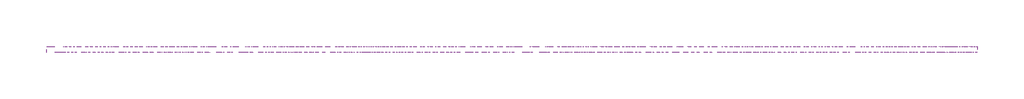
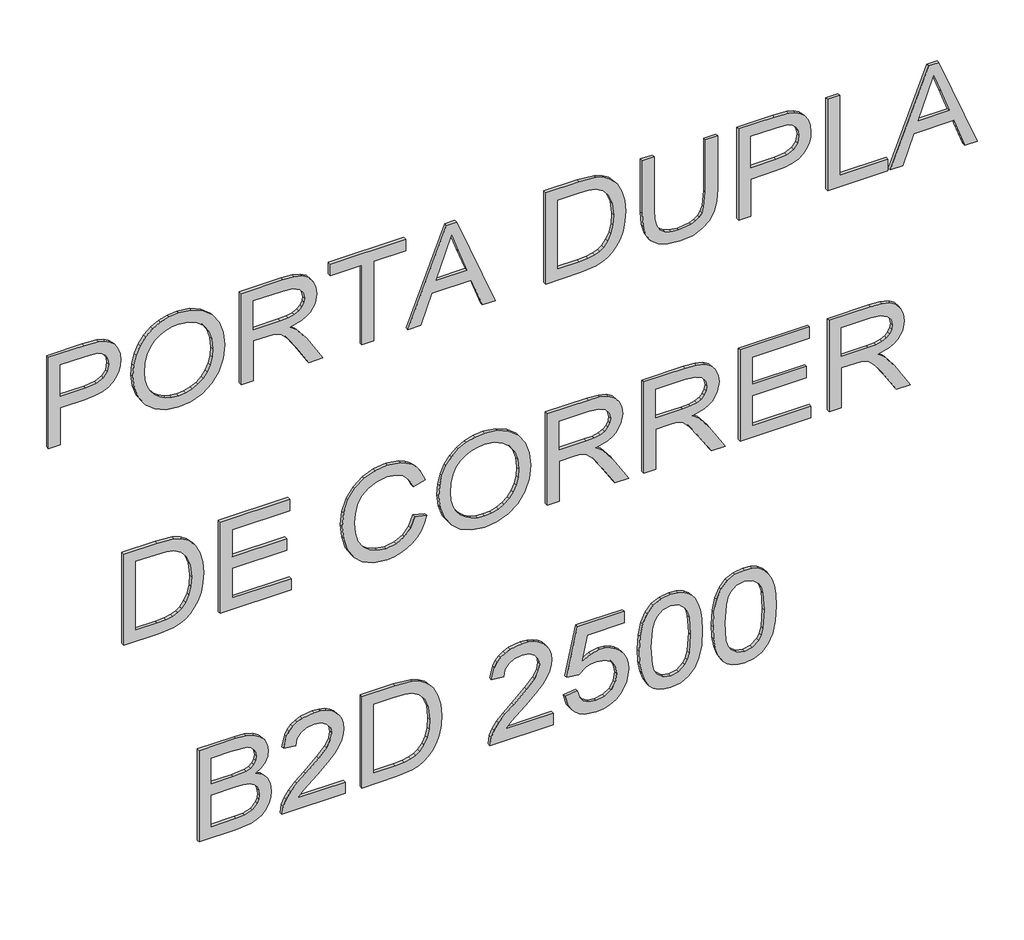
# One storey, part 9 of 13: 1 proxy.
"""IFC4 building model written with IfcOpenShell, lengths in millimetres."""

from ifc_helpers import new_model, si_unit, frame, origin, place, context, project, spatial, polyline, outline, extrude, element, save

model = new_model("IFC4")

# Units and contexts
model_context = context("Model", 3, world=origin())
ifc_project = project(units=[si_unit("LENGTHUNIT", "METRE", prefix="MILLI")], contexts=[model_context])

# Site, building, storey
site = spatial("IfcSite", under=ifc_project)
building = spatial("IfcBuilding", under=site)
storey = spatial("IfcBuildingStorey", under=building, Name="02 - Marelli - Planta Baixa - Portas", Elevation=-12000.0)

# Proxy
placement = place(None, origin())
element("IfcBuildingElementProxy", 1, Name="300mm Arial", ObjectType="300mm Arial", at=placement, inside=storey, context=model_context, shape_type="SweptSolid", body=[
    extrude(outline(polyline([(-5683.1381416, 47436.452421), (-5683.1381416, 47474.1235373), (-5560.7070137, 47474.1235373), (-5560.7070137, 47550.7165687), (-5559.0423476, 47579.9149028), (-5554.0483495, 47604.2342019), (-5545.7250194, 47623.6744661), (-5534.0723572, 47638.2356953), (-5520.0146665, 47648.8421931), (-5504.4762507, 47656.4182629), (-5487.4571099, 47660.9639049), (-5468.9572441, 47662.4791188), (-5447.5005267, 47660.2350386), (-5427.8648252, 47653.5027981), (-5411.2181649, 47643.0825406), (-5398.7285712, 47629.7744094), (-5390.0005708, 47613.2473108), (-5384.6386908, 47593.1701509), (-5381.7692112, 47548.1413947), (-5381.7692112, 47436.452421), (-5683.1381416, 47436.452421)]), holes=[polyline([(-5523.0358973, 47474.1235373), (-5419.4403275, 47474.1235373), (-5419.4403275, 47552.0409439), (-5422.0155015, 47589.7120602), (-5428.3430718, 47603.9398963), (-5439.085226, 47615.132706), (-5453.3590475, 47622.3891784), (-5470.2816192, 47624.8080025), (-5492.556874, 47620.7061183), (-5509.2035343, 47608.4004655), (-5519.5778066, 47586.3275458), (-5523.0358973, 47552.9238607), (-5523.0358973, 47474.1235373)])]), frame((0.0, 8778.3159498, 0.0), z_axis=(0.0, 1.0, 0.0), x_axis=(0.0, 0.0, 1.0)), (0.0, 0.0, 1.0), 10.0),
    extrude(outline(polyline([(-5536.426802, 47700.1502351), (-5574.971638, 47704.4544545), (-5611.4379408, 47717.3671125), (-5643.1309747, 47738.6306918), (-5667.3560041, 47767.987675), (-5682.7242744, 47803.6354404), (-5687.8470312, 47843.771366), (-5683.211718, 47881.5804381), (-5669.3057786, 47916.7223657), (-5646.3867303, 47946.6863542), (-5614.7120905, 47968.961609), (-5576.2500279, 47982.784775), (-5532.9687112, 47987.392497), (-5490.2576116, 47983.0147012), (-5452.3289779, 47969.881314), (-5420.7095204, 47948.3970055), (-5396.9259494, 47918.9664459), (-5382.0267286, 47883.5210156), (-5377.0603217, 47843.9920952), (-5379.7044735, 47813.7016115), (-5387.636929, 47786.3265925), (-5400.8576882, 47761.8670383), (-5419.3667511, 47740.322949), (-5442.5479153, 47722.7473867), (-5469.7849785, 47710.1934136), (-5501.0779408, 47702.6610297), (-5536.426802, 47700.1502351)]), holes=[polyline([(-5536.794684, 47737.8213514), (-5506.2581791, 47739.7849216), (-5480.4259653, 47745.675632), (-5459.2980424, 47755.4934828), (-5442.8744106, 47769.2384738), (-5430.5618601, 47785.7057916), (-5421.7671811, 47803.6906227), (-5416.4903738, 47823.1929669), (-5414.731438, 47844.2128244), (-5418.3826668, 47873.3766696), (-5429.3363532, 47899.5054883), (-5446.9303096, 47921.1645408), (-5470.5023484, 47936.9190872), (-5499.3259028, 47946.5208073), (-5532.6744056, 47949.7213807), (-5559.212493, 47947.8520803), (-5582.5408101, 47942.2441791), (-5602.6593567, 47932.8976772), (-5619.5681329, 47919.8125744), (-5632.9590375, 47903.830401), (-5642.5239694, 47885.7926869), (-5648.2629285, 47865.6994322), (-5650.1759149, 47843.5506368), (-5648.2813226, 47821.774322), (-5642.5975458, 47801.915592), (-5633.1245844, 47783.974447), (-5619.8624385, 47767.9508868), (-5603.3031502, 47754.7692151), (-5583.9387616, 47745.3537353), (-5561.7692729, 47739.7044474), (-5536.794684, 47737.8213514)])]), frame((0.0, 8778.3159498, 0.0), z_axis=(0.0, 1.0, 0.0), x_axis=(0.0, 0.0, 1.0)), (0.0, 0.0, 1.0), 10.0),
    extrude(outline(polyline([(-5683.1381416, 48039.1902819), (-5683.1381416, 48076.8613982), (-5551.2892346, 48076.8613982), (-5551.2892346, 48122.3316128), (-5552.6136098, 48144.1838033), (-5559.7873087, 48162.0996565), (-5579.3218426, 48182.0020724), (-5620.6717789, 48210.328986), (-5683.1381416, 48249.5452067), (-5683.1381416, 48293.3231641), (-5601.4683387, 48243.0704836), (-5562.6935764, 48212.536278), (-5546.580345, 48191.1255459), (-5536.5923489, 48228.2356422), (-5528.5771199, 48242.6175289), (-5518.547737, 48254.2173081), (-5493.9364315, 48269.5303961), (-5464.2483545, 48274.6347588), (-5440.3820101, 48271.5537471), (-5418.6677753, 48262.310712), (-5401.1565923, 48247.9081318), (-5389.8994033, 48229.3484852), (-5383.8017592, 48203.9554305), (-5381.7692112, 48169.0526262), (-5381.7692112, 48039.1902819), (-5683.1381416, 48039.1902819)]), holes=[polyline([(-5513.6181183, 48076.8613982), (-5419.4403275, 48076.8613982), (-5419.4403275, 48170.671307), (-5422.6960832, 48200.4789456), (-5432.4633501, 48221.0343521), (-5447.2706004, 48232.9813199), (-5465.6463061, 48236.9636425), (-5478.9544373, 48234.8759122), (-5491.2141048, 48228.6127212), (-5501.3492537, 48218.3304194), (-5508.2838293, 48204.1853567), (-5512.284546, 48185.3957838), (-5513.6181183, 48161.1799515), (-5513.6181183, 48076.8613982)])]), frame((0.0, 8778.3159498, 0.0), z_axis=(0.0, 1.0, 0.0), x_axis=(0.0, 0.0, 1.0)), (0.0, 0.0, 1.0), 10.0),
    extrude(outline(polyline([(-5683.1381416, 48415.9014449), (-5683.1381416, 48453.5725612), (-5419.4403275, 48453.5725612), (-5419.4403275, 48552.4592416), (-5381.7692112, 48552.4592416), (-5381.7692112, 48317.0147646), (-5419.4403275, 48317.0147646), (-5419.4403275, 48415.9014449), (-5683.1381416, 48415.9014449)])), frame((0.0, 8778.3159498, 0.0), z_axis=(0.0, 1.0, 0.0), x_axis=(0.0, 0.0, 1.0)), (0.0, 0.0, 1.0), 10.0),
    extrude(outline(polyline([(-5683.1381416, 48559.7433051), (-5683.1381416, 48599.5481369), (-5588.9603509, 48633.9818917), (-5588.9603509, 48758.1052769), (-5683.1381416, 48792.612608), (-5683.1381416, 48832.4174399), (-5381.7692112, 48712.1200275), (-5381.7692112, 48680.0407175), (-5683.1381416, 48559.7433051)]), holes=[polyline([(-5551.2892346, 48647.8142547), (-5470.7230776, 48677.3183907), (-5419.4403275, 48696.0803725), (-5477.1978007, 48717.196799), (-5551.2892346, 48744.3464902), (-5551.2892346, 48647.8142547)])]), frame((0.0, 8778.3159498, 0.0), z_axis=(0.0, 1.0, 0.0), x_axis=(0.0, 0.0, 1.0)), (0.0, 0.0, 1.0), 10.0),
    extrude(outline(polyline([(-5683.1381416, 48990.3859686), (-5683.1381416, 49099.3526156), (-5677.9877937, 49147.8026743), (-5671.6326322, 49167.3464053), (-5662.8678437, 49183.8183217), (-5651.0496346, 49198.1657195), (-5635.5342115, 49211.3358949), (-5615.8801159, 49222.777025), (-5591.6458894, 49231.9372866), (-5563.1810201, 49237.9521573), (-5530.8349956, 49239.9571141), (-5492.7592091, 49236.9956641), (-5459.171583, 49228.1113139), (-5430.6239402, 49213.2672754), (-5407.6681037, 49192.4267604), (-5394.4795341, 49172.1564624), (-5386.1102187, 49148.1337681), (-5381.7692112, 49094.3494204), (-5381.7692112, 48990.3859686), (-5683.1381416, 48990.3859686)]), holes=[polyline([(-5645.4670253, 49028.0570849), (-5419.4403275, 49028.0570849), (-5419.4403275, 49093.6872329), (-5420.9486437, 49125.435449), (-5425.4735922, 49147.1036986), (-5438.0551565, 49168.394869), (-5458.8772774, 49186.2095546), (-5489.1907538, 49198.266887), (-5530.2463845, 49202.2859978), (-5561.2312455, 49200.2350557), (-5587.2313055, 49194.0822293), (-5608.338535, 49184.250583), (-5624.6449044, 49171.163181), (-5633.4556782, 49158.986287), (-5640.0223718, 49143.2041494), (-5644.105862, 49122.290058), (-5645.4670253, 49094.7173024), (-5645.4670253, 49028.0570849)])]), frame((0.0, 8778.3159498, 0.0), z_axis=(0.0, 1.0, 0.0), x_axis=(0.0, 0.0, 1.0)), (0.0, 0.0, 1.0), 10.0),
    extrude(outline(polyline([(-5381.7692112, 49489.5282597), (-5554.3058669, 49489.5282597), (-5601.4683387, 49484.7641878), (-5618.2069695, 49478.809098), (-5630.3838635, 49470.4719723), (-5639.042886, 49459.3389434), (-5645.227902, 49444.9961441), (-5650.1759149, 49406.6812344), (-5647.6743173, 49382.5113873), (-5640.1695246, 49362.3882421), (-5628.0570099, 49346.9555924), (-5611.7322464, 49336.8572317), (-5588.1602075, 49331.2838194), (-5554.3058669, 49329.4260154), (-5381.7692112, 49329.4260154), (-5381.7692112, 49291.7548991), (-5555.6302421, 49291.7548991), (-5598.4057211, 49294.6151816), (-5631.0828393, 49303.1960291), (-5655.4458245, 49318.4631319), (-5673.2789042, 49341.3821802), (-5684.2049994, 49371.9623711), (-5687.8470312, 49410.2129015), (-5683.6623735, 49449.3187576), (-5671.1084004, 49480.1104806), (-5651.8865662, 49502.6432528), (-5627.698325, 49516.9722565), (-5596.3455819, 49524.6425961), (-5555.6302421, 49527.199376), (-5381.7692112, 49527.199376), (-5381.7692112, 49489.5282597)])), frame((0.0, 8778.3159498, 0.0), z_axis=(0.0, 1.0, 0.0), x_axis=(0.0, 0.0, 1.0)), (0.0, 0.0, 1.0), 10.0),
    extrude(outline(polyline([(-5683.1381416, 49593.1238295), (-5683.1381416, 49630.7949458), (-5560.7070137, 49630.7949458), (-5560.7070137, 49707.3879772), (-5559.0423476, 49736.5863113), (-5554.0483495, 49760.9056105), (-5545.7250194, 49780.3458746), (-5534.0723572, 49794.9071039), (-5520.0146665, 49805.5136016), (-5504.4762507, 49813.0896715), (-5487.4571099, 49817.6353134), (-5468.9572441, 49819.1505273), (-5447.5005267, 49816.9064472), (-5427.8648252, 49810.1742067), (-5411.2181649, 49799.7539491), (-5398.7285712, 49786.445818), (-5390.0005708, 49769.9187193), (-5384.6386908, 49749.8415595), (-5381.7692112, 49704.8128032), (-5381.7692112, 49593.1238295), (-5683.1381416, 49593.1238295)]), holes=[polyline([(-5523.0358973, 49630.7949458), (-5419.4403275, 49630.7949458), (-5419.4403275, 49708.7123524), (-5422.0155015, 49746.3834687), (-5428.3430718, 49760.6113049), (-5439.085226, 49771.8041146), (-5453.3590475, 49779.0605869), (-5470.2816192, 49781.479411), (-5492.556874, 49777.3775268), (-5509.2035343, 49765.0718741), (-5519.5778066, 49742.9989543), (-5523.0358973, 49709.5952692), (-5523.0358973, 49630.7949458)])]), frame((0.0, 8778.3159498, 0.0), z_axis=(0.0, 1.0, 0.0), x_axis=(0.0, 0.0, 1.0)), (0.0, 0.0, 1.0), 10.0),
    extrude(outline(polyline([(-5683.1381416, 49870.9483123), (-5683.1381416, 50059.3038938), (-5645.4670253, 50059.3038938), (-5645.4670253, 49908.6194286), (-5381.7692112, 49908.6194286), (-5381.7692112, 49870.9483123), (-5683.1381416, 49870.9483123)])), frame((0.0, 8778.3159498, 0.0), z_axis=(0.0, 1.0, 0.0), x_axis=(0.0, 0.0, 1.0)), (0.0, 0.0, 1.0), 10.0),
    extrude(outline(polyline([(-5683.1381416, 50066.5879573), (-5683.1381416, 50106.3927892), (-5588.9603509, 50140.8265439), (-5588.9603509, 50264.9499291), (-5683.1381416, 50299.4572602), (-5683.1381416, 50339.2620921), (-5381.7692112, 50218.9646797), (-5381.7692112, 50186.8853697), (-5683.1381416, 50066.5879573)]), holes=[polyline([(-5551.2892346, 50154.6589069), (-5470.7230776, 50184.163043), (-5419.4403275, 50202.9250247), (-5477.1978007, 50224.0414512), (-5551.2892346, 50251.1911425), (-5551.2892346, 50154.6589069)])]), frame((0.0, 8778.3159498, 0.0), z_axis=(0.0, 1.0, 0.0), x_axis=(0.0, 0.0, 1.0)), (0.0, 0.0, 1.0), 10.0),
    extrude(outline(polyline([(-6414.9870487, 47671.8968979), (-6414.9870487, 47780.8635449), (-6409.8367008, 47829.3136036), (-6403.4815393, 47848.8573346), (-6394.7167508, 47865.329251), (-6382.8985417, 47879.6766488), (-6367.3831185, 47892.8468242), (-6347.729023, 47904.2879542), (-6323.4947965, 47913.4482159), (-6295.0299271, 47919.4630866), (-6262.6839027, 47921.4680434), (-6224.6081162, 47918.5065934), (-6191.0204901, 47909.6222432), (-6162.4728472, 47894.7782047), (-6139.5170107, 47873.9376896), (-6126.3284412, 47853.6673917), (-6117.9591258, 47829.6446974), (-6113.6181183, 47775.8603497), (-6113.6181183, 47671.8968979), (-6414.9870487, 47671.8968979)]), holes=[polyline([(-6377.3159324, 47709.5680142), (-6151.2892346, 47709.5680142), (-6151.2892346, 47775.1981621), (-6152.7975508, 47806.9463783), (-6157.3224993, 47828.6146278), (-6169.9040635, 47849.9057983), (-6190.7261845, 47867.7204839), (-6221.0396609, 47879.7778163), (-6262.0952915, 47883.7969271), (-6293.0801526, 47881.745985), (-6319.0802126, 47875.5931586), (-6340.187442, 47865.7615123), (-6356.4938115, 47852.6741103), (-6365.3045853, 47840.4972163), (-6371.8712789, 47824.7150787), (-6375.954769, 47803.8009873), (-6377.3159324, 47776.2282317), (-6377.3159324, 47709.5680142)])]), frame((0.0, 8778.3159498, 0.0), z_axis=(0.0, 1.0, 0.0), x_axis=(0.0, 0.0, 1.0)), (0.0, 0.0, 1.0), 10.0),
    extrude(outline(polyline([(-6414.9870487, 47973.2658283), (-6414.9870487, 48194.5836366), (-6377.3159324, 48194.5836366), (-6377.3159324, 48010.9369447), (-6278.4292521, 48010.9369447), (-6278.4292521, 48180.456968), (-6240.7581358, 48180.456968), (-6240.7581358, 48010.9369447), (-6151.2892346, 48010.9369447), (-6151.2892346, 48189.8747471), (-6113.6181183, 48189.8747471), (-6113.6181183, 47973.2658283), (-6414.9870487, 47973.2658283)])), frame((0.0, 8778.3159498, 0.0), z_axis=(0.0, 1.0, 0.0), x_axis=(0.0, 0.0, 1.0)), (0.0, 0.0, 1.0), 10.0),
    extrude(outline(polyline([(-6307.8598117, 48580.7125788), (-6340.1230627, 48568.5264877), (-6363.3364166, 48548.7436334), (-6377.3527206, 48522.5412383), (-6382.024822, 48491.0965248), (-6378.5943223, 48464.1215775), (-6368.3028235, 48439.1147988), (-6351.0767491, 48418.2558897), (-6326.8425227, 48403.7245509), (-6296.7497755, 48395.1988857), (-6261.9481387, 48392.3569973), (-6233.5292546, 48394.7574273), (-6205.9564991, 48401.9587173), (-6181.5659228, 48415.0829075), (-6162.6935764, 48435.2520379), (-6150.6086529, 48461.831512), (-6146.580345, 48494.1867335), (-6150.2131797, 48522.2561297), (-6161.1116838, 48545.1016016), (-6179.956439, 48562.9438784), (-6207.428027, 48576.0036892), (-6198.4517064, 48613.6748055), (-6160.6334373, 48597.0373423), (-6145.3111522, 48585.2352281), (-6132.3801, 48571.1108587), (-6122.1115938, 48554.9309487), (-6114.7769466, 48536.9622125), (-6108.9092287, 48495.6582615), (-6113.4433743, 48457.8032042), (-6127.0458111, 48423.2590848), (-6149.3854453, 48394.1320279), (-6180.131183, 48372.5281577), (-6218.0782108, 48359.1464501), (-6262.0217151, 48354.6858809), (-6303.6843511, 48358.6314153), (-6342.5878721, 48370.4680185), (-6375.6788575, 48389.8553997), (-6399.9038869, 48416.4532679), (-6414.7479254, 48451.1537371), (-6419.6959383, 48494.8489211), (-6418.0611626, 48517.2713287), (-6413.1568358, 48537.8911145), (-6404.9829577, 48556.7082786), (-6393.5395284, 48573.7228209), (-6378.9828977, 48588.5990491), (-6361.4694155, 48601.0012708), (-6340.9990817, 48610.9294862), (-6317.5718964, 48618.3836951), (-6307.8598117, 48580.7125788)])), frame((0.0, 8778.3159498, 0.0), z_axis=(0.0, 1.0, 0.0), x_axis=(0.0, 0.0, 1.0)), (0.0, 0.0, 1.0), 10.0),
    extrude(outline(polyline([(-6268.275709, 48656.0548114), (-6306.8205451, 48660.3590307), (-6343.2868479, 48673.2716888), (-6374.9798817, 48694.5352681), (-6399.2049111, 48723.8922513), (-6414.5731815, 48759.5400166), (-6419.6959383, 48799.6759423), (-6415.0606251, 48837.4850144), (-6401.1546857, 48872.626942), (-6378.2356374, 48902.5909305), (-6346.5609976, 48924.8661853), (-6308.098935, 48938.6893512), (-6264.8176183, 48943.2970732), (-6222.1065186, 48938.9192775), (-6184.1778849, 48925.7858903), (-6152.5584275, 48904.3015817), (-6128.7748565, 48874.8710221), (-6113.8756357, 48839.4255919), (-6108.9092287, 48799.8966715), (-6111.5533806, 48769.6061877), (-6119.4858361, 48742.2311688), (-6132.7065953, 48717.7716146), (-6151.2156582, 48696.2275253), (-6174.3968224, 48678.6519629), (-6201.6338856, 48666.0979899), (-6232.9268478, 48658.565606), (-6268.275709, 48656.0548114)]), holes=[polyline([(-6268.643591, 48693.7259277), (-6238.1070862, 48695.6894978), (-6212.2748723, 48701.5802083), (-6191.1469495, 48711.398059), (-6174.7233177, 48725.1430501), (-6162.4107671, 48741.6103679), (-6153.6160882, 48759.5951989), (-6148.3392808, 48779.0975432), (-6146.580345, 48800.1174007), (-6150.2315738, 48829.2812459), (-6161.1852602, 48855.4100646), (-6178.7792167, 48877.069117), (-6202.3512555, 48892.8236635), (-6231.1748098, 48902.4253836), (-6264.5233127, 48905.6259569), (-6291.0614001, 48903.7566565), (-6314.3897171, 48898.1487554), (-6334.5082637, 48888.8022534), (-6351.41704, 48875.7171507), (-6364.8079446, 48859.7349773), (-6374.3728765, 48841.6972632), (-6380.1118356, 48821.6040085), (-6382.024822, 48799.4552131), (-6380.1302297, 48777.6788983), (-6374.4464529, 48757.8201683), (-6364.9734915, 48739.8790233), (-6351.7113455, 48723.8554631), (-6335.1520572, 48710.6737914), (-6315.7876687, 48701.2583116), (-6293.61818, 48695.6090237), (-6268.643591, 48693.7259277)])]), frame((0.0, 8778.3159498, 0.0), z_axis=(0.0, 1.0, 0.0), x_axis=(0.0, 0.0, 1.0)), (0.0, 0.0, 1.0), 10.0),
    extrude(outline(polyline([(-6414.9870487, 48995.0948581), (-6414.9870487, 49032.7659745), (-6283.1381416, 49032.7659745), (-6283.1381416, 49078.2361891), (-6284.4625168, 49100.0883796), (-6291.6362157, 49118.0042327), (-6311.1707497, 49137.9066487), (-6352.5206859, 49166.2335623), (-6414.9870487, 49205.449783), (-6414.9870487, 49249.2277404), (-6333.3172458, 49198.9750599), (-6294.5424835, 49168.4408543), (-6278.4292521, 49147.0301222), (-6268.4412559, 49184.1402184), (-6260.426027, 49198.5221052), (-6250.3966441, 49210.1218843), (-6225.7853386, 49225.4349724), (-6196.0972616, 49230.5393351), (-6172.2309172, 49227.4583234), (-6150.5166824, 49218.2152882), (-6133.0054994, 49203.8127081), (-6121.7483104, 49185.2530615), (-6115.6506663, 49159.8600067), (-6113.6181183, 49124.9572024), (-6113.6181183, 48995.0948581), (-6414.9870487, 48995.0948581)]), holes=[polyline([(-6245.4670253, 49032.7659745), (-6151.2892346, 49032.7659745), (-6151.2892346, 49126.5758832), (-6154.5449902, 49156.3835219), (-6164.3122572, 49176.9389284), (-6179.1195075, 49188.8858962), (-6197.4952132, 49192.8682188), (-6210.8033443, 49190.7804884), (-6223.0630118, 49184.5172975), (-6233.1981608, 49174.2349957), (-6240.1327364, 49160.089933), (-6244.1334531, 49141.3003601), (-6245.4670253, 49117.0845277), (-6245.4670253, 49032.7659745)])]), frame((0.0, 8778.3159498, 0.0), z_axis=(0.0, 1.0, 0.0), x_axis=(0.0, 0.0, 1.0)), (0.0, 0.0, 1.0), 10.0),
    extrude(outline(polyline([(-6414.9870487, 49296.4637886), (-6414.9870487, 49334.1349049), (-6283.1381416, 49334.1349049), (-6283.1381416, 49379.6051195), (-6284.4625168, 49401.45731), (-6291.6362157, 49419.3731632), (-6311.1707497, 49439.2755791), (-6352.5206859, 49467.6024928), (-6414.9870487, 49506.8187134), (-6414.9870487, 49550.5966709), (-6333.3172458, 49500.3439903), (-6294.5424835, 49469.8097847), (-6278.4292521, 49448.3990526), (-6268.4412559, 49485.5091489), (-6260.426027, 49499.8910356), (-6250.3966441, 49511.4908148), (-6225.7853386, 49526.8039028), (-6196.0972616, 49531.9082655), (-6172.2309172, 49528.8272538), (-6150.5166824, 49519.5842187), (-6133.0054994, 49505.1816386), (-6121.7483104, 49486.6219919), (-6115.6506663, 49461.2289372), (-6113.6181183, 49426.3261329), (-6113.6181183, 49296.4637886), (-6414.9870487, 49296.4637886)]), holes=[polyline([(-6245.4670253, 49334.1349049), (-6151.2892346, 49334.1349049), (-6151.2892346, 49427.9448137), (-6154.5449902, 49457.7524523), (-6164.3122572, 49478.3078588), (-6179.1195075, 49490.2548266), (-6197.4952132, 49494.2371492), (-6210.8033443, 49492.1494189), (-6223.0630118, 49485.8862279), (-6233.1981608, 49475.6039261), (-6240.1327364, 49461.4588634), (-6244.1334531, 49442.6692905), (-6245.4670253, 49418.4534582), (-6245.4670253, 49334.1349049)])]), frame((0.0, 8778.3159498, 0.0), z_axis=(0.0, 1.0, 0.0), x_axis=(0.0, 0.0, 1.0)), (0.0, 0.0, 1.0), 10.0),
    extrude(outline(polyline([(-6414.9870487, 49597.832719), (-6414.9870487, 49819.1505273), (-6377.3159324, 49819.1505273), (-6377.3159324, 49635.5038354), (-6278.4292521, 49635.5038354), (-6278.4292521, 49805.0238587), (-6240.7581358, 49805.0238587), (-6240.7581358, 49635.5038354), (-6151.2892346, 49635.5038354), (-6151.2892346, 49814.4416378), (-6113.6181183, 49814.4416378), (-6113.6181183, 49597.832719), (-6414.9870487, 49597.832719)])), frame((0.0, 8778.3159498, 0.0), z_axis=(0.0, 1.0, 0.0), x_axis=(0.0, 0.0, 1.0)), (0.0, 0.0, 1.0), 10.0),
    extrude(outline(polyline([(-6414.9870487, 49875.6572018), (-6414.9870487, 49913.3283181), (-6283.1381416, 49913.3283181), (-6283.1381416, 49958.7985327), (-6284.4625168, 49980.6507232), (-6291.6362157, 49998.5665764), (-6311.1707497, 50018.4689923), (-6352.5206859, 50046.795906), (-6414.9870487, 50086.0121266), (-6414.9870487, 50129.7900841), (-6333.3172458, 50079.5374035), (-6294.5424835, 50049.0031979), (-6278.4292521, 50027.5924658), (-6268.4412559, 50064.7025621), (-6260.426027, 50079.0844488), (-6250.3966441, 50090.684228), (-6225.7853386, 50105.997316), (-6196.0972616, 50111.1016787), (-6172.2309172, 50108.020667), (-6150.5166824, 50098.7776319), (-6133.0054994, 50084.3750518), (-6121.7483104, 50065.8154051), (-6115.6506663, 50040.4223504), (-6113.6181183, 50005.5195461), (-6113.6181183, 49875.6572018), (-6414.9870487, 49875.6572018)]), holes=[polyline([(-6245.4670253, 49913.3283181), (-6151.2892346, 49913.3283181), (-6151.2892346, 50007.1382269), (-6154.5449902, 50036.9458655), (-6164.3122572, 50057.501272), (-6179.1195075, 50069.4482398), (-6197.4952132, 50073.4305624), (-6210.8033443, 50071.3428321), (-6223.0630118, 50065.0796411), (-6233.1981608, 50054.7973394), (-6240.1327364, 50040.6522766), (-6244.1334531, 50021.8627037), (-6245.4670253, 49997.6468714), (-6245.4670253, 49913.3283181)])]), frame((0.0, 8778.3159498, 0.0), z_axis=(0.0, 1.0, 0.0), x_axis=(0.0, 0.0, 1.0)), (0.0, 0.0, 1.0), 10.0),
    extrude(outline(polyline([(-7146.8359558, 47907.3413748), (-7146.8359558, 48021.4583697), (-7141.6488197, 48069.7612757), (-7135.2292788, 48087.7966905), (-7126.3449287, 48102.5395614), (-7114.0760641, 48114.5784997), (-7097.5029802, 48124.5021166), (-7078.0144315, 48131.1515836), (-7056.9991726, 48133.3680726), (-7031.7808618, 48130.121514), (-7010.1310064, 48120.3818382), (-6993.1716464, 48104.6088977), (-6982.024822, 48083.2625449), (-6970.2801893, 48101.1324128), (-6955.3533773, 48113.8335387), (-6938.2928498, 48121.4211049), (-6920.1470704, 48123.9502936), (-6900.4285954, 48120.9428583), (-6881.5930373, 48111.9205523), (-6865.5809734, 48097.5915486), (-6854.3329814, 48078.66402), (-6847.6835144, 48053.969941), (-6845.4670253, 48022.3412865), (-6845.4670253, 47907.3413748), (-7146.8359558, 47907.3413748)]), holes=[polyline([(-6967.8981533, 47945.0124911), (-6883.1381416, 47945.0124911), (-6883.1381416, 48008.5824999), (-6887.074479, 48056.9957704), (-6892.6754824, 48069.4853642), (-6901.6058178, 48078.7008082), (-6913.0469479, 48084.384585), (-6926.1803351, 48086.2791773), (-6939.7091955, 48084.2466292), (-6950.7180642, 48078.1489852), (-6959.0781825, 48068.0414274), (-6964.6607918, 48053.9791381), (-6967.8981533, 48013.8064242), (-6967.8981533, 47945.0124911)]), polyline([(-7109.1648395, 47945.0124911), (-7005.5692696, 47945.0124911), (-7005.5692696, 48018.5888902), (-7006.8292655, 48045.4166846), (-7010.609253, 48065.1259625), (-7017.4978433, 48079.041099), (-7028.0836477, 48088.4864692), (-7041.6217052, 48093.8943346), (-7057.3670546, 48095.6969563), (-7070.9235061, 48094.161049), (-7082.7509122, 48089.553327), (-7099.489543, 48073.881554), (-7107.6933115, 48050.2267417), (-7109.1648395, 48022.2677101), (-7109.1648395, 47945.0124911)])]), frame((0.0, 8778.3159498, 0.0), z_axis=(0.0, 1.0, 0.0), x_axis=(0.0, 0.0, 1.0)), (0.0, 0.0, 1.0), 10.0),
    extrude(outline(polyline([(-7109.1648395, 48364.10366), (-7109.1648395, 48216.1415216), (-7089.9981875, 48233.1376697), (-7053.761811, 48276.4741688), (-7024.7451186, 48309.1696811), (-7002.1479671, 48330.4424575), (-6983.2204384, 48343.7873768), (-6965.2126148, 48352.6993182), (-6947.5082938, 48357.7209074), (-6929.491273, 48359.3947705), (-6912.338775, 48357.8427683), (-6896.6394109, 48353.1867618), (-6882.3931806, 48345.426751), (-6869.6000842, 48334.5627358), (-6859.041871, 48321.0361747), (-6851.5002901, 48305.288526), (-6846.9753415, 48287.3197898), (-6845.4670253, 48267.1299661), (-6850.8932848, 48229.2473176), (-6857.6761091, 48213.5134646), (-6867.1720631, 48199.9179256), (-6879.2523881, 48188.7182181), (-6893.7883254, 48180.1718595), (-6930.227037, 48171.039189), (-6934.9359266, 48208.7103053), (-6913.2860712, 48212.7845984), (-6896.8969283, 48224.5660192), (-6886.5778383, 48242.8221633), (-6883.1381416, 48266.3206257), (-6886.6606118, 48288.6970481), (-6897.2280221, 48306.382975), (-6912.9089921, 48317.8884844), (-6931.7721414, 48321.7236542), (-6952.8149915, 48317.6585581), (-6974.4464529, 48305.46327), (-7001.0995034, 48281.0726937), (-7037.2071212, 48240.4217332), (-7060.2641253, 48212.9225541), (-7080.8747141, 48193.2592615), (-7100.5655978, 48179.6660217), (-7120.8634869, 48170.3770014), (-7146.8359558, 48166.3302994), (-7146.8359558, 48364.10366), (-7109.1648395, 48364.10366)])), frame((0.0, 8778.3159498, 0.0), z_axis=(0.0, 1.0, 0.0), x_axis=(0.0, 0.0, 1.0)), (0.0, 0.0, 1.0), 10.0),
    extrude(outline(polyline([(-7146.8359558, 48415.9014449), (-7146.8359558, 48524.8680919), (-7141.6856079, 48573.3181507), (-7135.3304464, 48592.8618817), (-7126.5656579, 48609.333798), (-7114.7474488, 48623.6811958), (-7099.2320256, 48636.8513712), (-7079.57793, 48648.2925013), (-7055.3437036, 48657.452763), (-7026.8788342, 48663.4676336), (-6994.5328098, 48665.4725905), (-6956.4570233, 48662.5111404), (-6922.8693971, 48653.6267902), (-6894.3217543, 48638.7827517), (-6871.3659178, 48617.9422367), (-6858.1773483, 48597.6719388), (-6849.8080329, 48573.6492445), (-6845.4670253, 48519.8648968), (-6845.4670253, 48415.9014449), (-7146.8359558, 48415.9014449)]), holes=[polyline([(-7109.1648395, 48453.5725612), (-6883.1381416, 48453.5725612), (-6883.1381416, 48519.2027092), (-6884.6464578, 48550.9509254), (-6889.1714064, 48572.6191749), (-6901.7529706, 48593.9103454), (-6922.5750915, 48611.725031), (-6952.8885679, 48623.7823634), (-6993.9441986, 48627.8014742), (-7024.9290596, 48625.750532), (-7050.9291196, 48619.5977057), (-7072.0363491, 48609.7660593), (-7088.3427186, 48596.6786574), (-7097.1534923, 48584.5017633), (-7103.720186, 48568.7196257), (-7107.8036761, 48547.8055343), (-7109.1648395, 48520.2327788), (-7109.1648395, 48453.5725612)])]), frame((0.0, 8778.3159498, 0.0), z_axis=(0.0, 1.0, 0.0), x_axis=(0.0, 0.0, 1.0)), (0.0, 0.0, 1.0), 10.0),
    extrude(outline(polyline([(-7109.1648395, 49013.9304163), (-7109.1648395, 48865.9682778), (-7089.9981875, 48882.964426), (-7053.761811, 48926.300925), (-7024.7451186, 48958.9964374), (-7002.1479671, 48980.2692137), (-6983.2204384, 48993.6141331), (-6965.2126148, 49002.5260745), (-6947.5082938, 49007.5476637), (-6929.491273, 49009.2215268), (-6912.338775, 49007.6695246), (-6896.6394109, 49003.0135181), (-6882.3931806, 48995.2535073), (-6869.6000842, 48984.3894921), (-6859.041871, 48970.862931), (-6851.5002901, 48955.1152823), (-6846.9753415, 48937.1465461), (-6845.4670253, 48916.9567224), (-6850.8932848, 48879.0740739), (-6857.6761091, 48863.3402208), (-6867.1720631, 48849.7446819), (-6879.2523881, 48838.5449744), (-6893.7883254, 48829.9986158), (-6930.227037, 48820.8659452), (-6934.9359266, 48858.5370615), (-6913.2860712, 48862.6113546), (-6896.8969283, 48874.3927755), (-6886.5778383, 48892.6489195), (-6883.1381416, 48916.147382), (-6886.6606118, 48938.5238043), (-6897.2280221, 48956.2097313), (-6912.9089921, 48967.7152407), (-6931.7721414, 48971.5504105), (-6952.8149915, 48967.4853144), (-6974.4464529, 48955.2900263), (-7001.0995034, 48930.89945), (-7037.2071212, 48890.2484895), (-7060.2641253, 48862.7493104), (-7080.8747141, 48843.0860177), (-7100.5655978, 48829.492778), (-7120.8634869, 48820.2037576), (-7146.8359558, 48816.1570557), (-7146.8359558, 49013.9304163), (-7109.1648395, 49013.9304163)])), frame((0.0, 8778.3159498, 0.0), z_axis=(0.0, 1.0, 0.0), x_axis=(0.0, 0.0, 1.0)), (0.0, 0.0, 1.0), 10.0),
    extrude(outline(polyline([(-7066.7848336, 49051.6015326), (-7101.33815, 49060.7893854), (-7115.7798176, 49069.5150865), (-7128.3314914, 49080.995304), (-7138.4873338, 49094.7931781), (-7145.7415069, 49110.4718489), (-7151.5448453, 49147.4715805), (-7149.2869696, 49170.9608459), (-7142.5133423, 49191.8381492), (-7131.2239636, 49210.1034902), (-7115.4188334, 49225.7568691), (-7099.9861837, 49236.0897547), (-7083.1923706, 49243.4703872), (-7045.5212543, 49249.3748932), (-7025.2601534, 49247.7355191), (-7006.930433, 49242.8173966), (-6990.5320931, 49234.6205259), (-6976.0651336, 49223.144907), (-6964.2515231, 49209.2826535), (-6955.8132298, 49193.9258795), (-6950.7502538, 49177.0745848), (-6949.0625952, 49158.7287696), (-6954.5072487, 49130.5306147), (-6970.8412093, 49103.6200467), (-6887.8470312, 49119.7332781), (-6887.8470312, 49235.2482246), (-6850.1759149, 49235.2482246), (-6850.1759149, 49089.2726489), (-7005.5692696, 49056.3104221), (-7010.2781592, 49093.9815385), (-6993.282011, 49115.1347532), (-6988.3707864, 49129.9328064), (-6986.7337115, 49148.2073445), (-6990.8355957, 49176.1019968), (-7003.1412485, 49195.9216393), (-7022.5286296, 49207.7582425), (-7047.8756991, 49211.7037769), (-7074.7954641, 49207.4915281), (-7095.8107231, 49194.8547815), (-7109.3579775, 49174.6212718), (-7113.873729, 49147.6187333), (-7110.6271704, 49125.4170549), (-7100.8874946, 49108.2553599), (-7084.6914898, 49096.1888304), (-7062.0759441, 49089.2726489), (-7066.7848336, 49051.6015326)])), frame((0.0, 8778.3159498, 0.0), z_axis=(0.0, 1.0, 0.0), x_axis=(0.0, 0.0, 1.0)), (0.0, 0.0, 1.0), 10.0),
    extrude(outline(polyline([(-6998.5795117, 49282.33712), (-7038.0210601, 49284.2133182), (-7071.8799993, 49289.8419127), (-7100.1563291, 49299.2229036), (-7122.8500497, 49312.3562908), (-7135.4040228, 49326.041501), (-7144.3711464, 49342.081156), (-7149.7514206, 49360.4752558), (-7151.5448453, 49381.2238003), (-7147.4153699, 49411.6752324), (-7135.0269437, 49436.3693114), (-7114.241611, 49455.471584), (-7084.921416, 49469.1475971), (-7046.5421269, 49477.3697597), (-6998.5795117, 49480.1104806), (-6958.61833, 49478.3998293), (-6927.7622277, 49473.2678755), (-6903.4636219, 49465.431989), (-6883.1749298, 49455.6095397), (-6867.0341073, 49442.6049112), (-6855.17911, 49425.2224869), (-6847.8950465, 49404.4371542), (-6845.4670253, 49381.2238003), (-6849.5689096, 49350.937915), (-6861.8745623, 49326.2990184), (-6882.5771216, 49307.1691547), (-6911.8697255, 49293.410368), (-6950.3409851, 49285.105432), (-6998.5795117, 49282.33712)]), holes=[polyline([(-6998.5059353, 49320.0082363), (-6940.0126981, 49324.569973), (-6918.9330598, 49330.272144), (-6903.298075, 49338.2551832), (-6888.178125, 49357.201106), (-6883.1381416, 49380.7823419), (-6888.8587067, 49405.687953), (-6906.0204017, 49425.3696397), (-6920.3815951, 49432.8376442), (-6940.5829152, 49438.1719331), (-6998.5059353, 49442.4393643), (-7057.6705572, 49438.0247803), (-7077.9339574, 49432.5065504), (-7091.9847503, 49424.7810285), (-7108.4014843, 49405.0625536), (-7113.873729, 49381.2238003), (-7108.4198784, 49357.385047), (-7092.0583267, 49337.6665721), (-7078.0305264, 49329.9410502), (-7057.7625277, 49324.4228202), (-6998.5059353, 49320.0082363)])]), frame((0.0, 8778.3159498, 0.0), z_axis=(0.0, 1.0, 0.0), x_axis=(0.0, 0.0, 1.0)), (0.0, 0.0, 1.0), 10.0),
    extrude(outline(polyline([(-6998.5795117, 49513.0727074), (-7038.0210601, 49514.9489055), (-7071.8799993, 49520.5775001), (-7100.1563291, 49529.9584909), (-7122.8500497, 49543.0918782), (-7135.4040228, 49556.7770884), (-7144.3711464, 49572.8167434), (-7149.7514206, 49591.2108431), (-7151.5448453, 49611.9593877), (-7147.4153699, 49642.4108198), (-7135.0269437, 49667.1048987), (-7114.241611, 49686.2071713), (-7084.921416, 49699.8831845), (-7046.5421269, 49708.1053471), (-6998.5795117, 49710.846068), (-6958.61833, 49709.1354167), (-6927.7622277, 49704.0034629), (-6903.4636219, 49696.1675764), (-6883.1749298, 49686.3451271), (-6867.0341073, 49673.3404986), (-6855.17911, 49655.9580743), (-6847.8950465, 49635.1727416), (-6845.4670253, 49611.9593877), (-6849.5689096, 49581.6735024), (-6861.8745623, 49557.0346058), (-6882.5771216, 49537.904742), (-6911.8697255, 49524.1459554), (-6950.3409851, 49515.8410194), (-6998.5795117, 49513.0727074)]), holes=[polyline([(-6998.5059353, 49550.7438237), (-6940.0126981, 49555.3055604), (-6918.9330598, 49561.0077313), (-6903.298075, 49568.9907706), (-6888.178125, 49587.9366934), (-6883.1381416, 49611.5179293), (-6888.8587067, 49636.4235403), (-6906.0204017, 49656.1052271), (-6920.3815951, 49663.5732316), (-6940.5829152, 49668.9075205), (-6998.5059353, 49673.1749517), (-7057.6705572, 49668.7603677), (-7077.9339574, 49663.2421378), (-7091.9847503, 49655.5166159), (-7108.4014843, 49635.7981409), (-7113.873729, 49611.9593877), (-7108.4198784, 49588.1206344), (-7092.0583267, 49568.4021594), (-7078.0305264, 49560.6766375), (-7057.7625277, 49555.1584076), (-6998.5059353, 49550.7438237)])]), frame((0.0, 8778.3159498, 0.0), z_axis=(0.0, 1.0, 0.0), x_axis=(0.0, 0.0, 1.0)), (0.0, 0.0, 1.0), 10.0),
])

save(model, "model.ifc")
